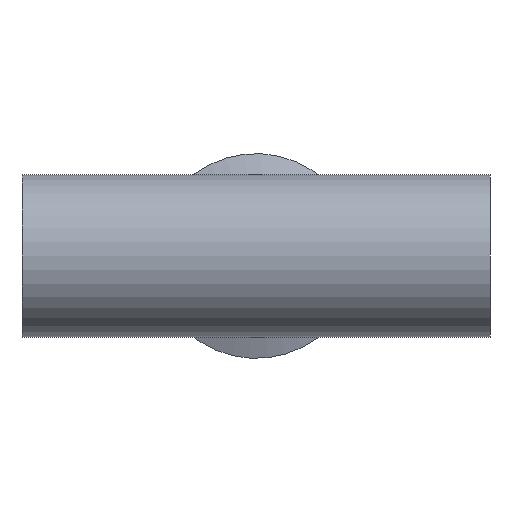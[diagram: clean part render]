
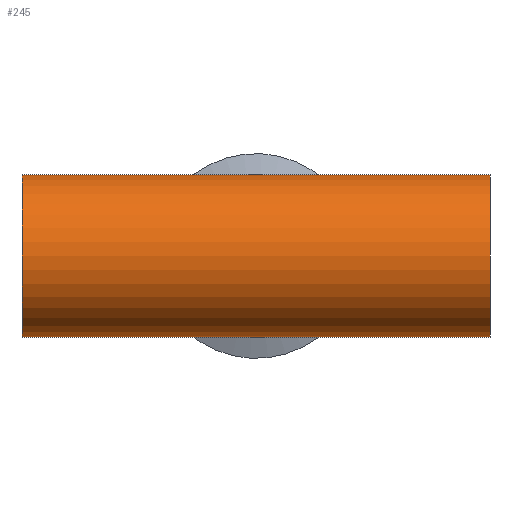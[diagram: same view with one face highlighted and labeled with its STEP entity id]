
A CAD part, front view. The second image highlights one B-rep face of the part: STEP entity #245.
In plain terms, the highlighted cylindrical face has radius 25.4 mm (diameter 50.8 mm), a partial arc.
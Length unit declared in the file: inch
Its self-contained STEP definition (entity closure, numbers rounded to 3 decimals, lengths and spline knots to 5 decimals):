
#5 = AXIS2_PLACEMENT_3D ( 'NONE', #188, #829, #289 ) ;
#8 = EDGE_CURVE ( 'NONE', #1010, #1090, #1019, .T. ) ;
#16 = EDGE_CURVE ( 'NONE', #1159, #1090, #312, .T. ) ;
#58 = FACE_OUTER_BOUND ( 'NONE', #623, .T. ) ;
#107 = CARTESIAN_POINT ( 'NONE',  ( 2.875, 0., 1. ) ) ;
#126 = CARTESIAN_POINT ( 'NONE',  ( 0., 0., -1. ) ) ;
#175 = ORIENTED_EDGE ( 'NONE', *, *, #1014, .T. ) ;
#188 = CARTESIAN_POINT ( 'NONE',  ( 2.875, 0., 0. ) ) ;
#216 = LINE ( 'NONE', #107, #661 ) ;
#227 = DIRECTION ( 'NONE',  ( 0., 0., -1. ) ) ;
#238 = VERTEX_POINT ( 'NONE', #413 ) ;
#239 = CARTESIAN_POINT ( 'NONE',  ( 2.875, 0., -1. ) ) ;
#245 = ADVANCED_FACE ( 'NONE', ( #58 ), #1001, .T. ) ;
#266 = ORIENTED_EDGE ( 'NONE', *, *, #16, .F. ) ;
#289 = DIRECTION ( 'NONE',  ( 0., 0., -1. ) ) ;
#301 = CARTESIAN_POINT ( 'NONE',  ( -2.875, 0., 1. ) ) ;
#311 = ORIENTED_EDGE ( 'NONE', *, *, #8, .T. ) ;
#312 = LINE ( 'NONE', #239, #515 ) ;
#351 = LINE ( 'NONE', #1110, #1074 ) ;
#353 = DIRECTION ( 'NONE',  ( 0., 0., 1. ) ) ;
#381 = EDGE_CURVE ( 'NONE', #590, #238, #446, .T. ) ;
#413 = CARTESIAN_POINT ( 'NONE',  ( 0., 0., 1. ) ) ;
#446 = LINE ( 'NONE', #1109, #907 ) ;
#481 = AXIS2_PLACEMENT_3D ( 'NONE', #759, #698, #353 ) ;
#515 = VECTOR ( 'NONE', #775, 39.37008 ) ;
#523 = ORIENTED_EDGE ( 'NONE', *, *, #873, .F. ) ;
#544 = DIRECTION ( 'NONE',  ( -1., 0., 0. ) ) ;
#570 = ORIENTED_EDGE ( 'NONE', *, *, #381, .T. ) ;
#590 = VERTEX_POINT ( 'NONE', #626 ) ;
#593 = CARTESIAN_POINT ( 'NONE',  ( -2.875, 0., 0. ) ) ;
#623 = EDGE_LOOP ( 'NONE', ( #523, #784, #570, #175, #311, #266 ) ) ;
#626 = CARTESIAN_POINT ( 'NONE',  ( 2.875, 0., 1. ) ) ;
#661 = VECTOR ( 'NONE', #846, 39.37008 ) ;
#679 = CIRCLE ( 'NONE', #5, 1. ) ;
#698 = DIRECTION ( 'NONE',  ( -1., 0., 0. ) ) ;
#718 = EDGE_CURVE ( 'NONE', #590, #802, #679, .T. ) ;
#759 = CARTESIAN_POINT ( 'NONE',  ( 2.875, 0., 0. ) ) ;
#775 = DIRECTION ( 'NONE',  ( -1., 0., 0. ) ) ;
#784 = ORIENTED_EDGE ( 'NONE', *, *, #718, .F. ) ;
#802 = VERTEX_POINT ( 'NONE', #1234 ) ;
#829 = DIRECTION ( 'NONE',  ( 1., 0., 0. ) ) ;
#846 = DIRECTION ( 'NONE',  ( -1., 0., 0. ) ) ;
#873 = EDGE_CURVE ( 'NONE', #802, #1159, #351, .T. ) ;
#907 = VECTOR ( 'NONE', #544, 39.37008 ) ;
#1000 = AXIS2_PLACEMENT_3D ( 'NONE', #593, #1172, #227 ) ;
#1001 = CYLINDRICAL_SURFACE ( 'NONE', #481, 1. ) ;
#1010 = VERTEX_POINT ( 'NONE', #301 ) ;
#1014 = EDGE_CURVE ( 'NONE', #238, #1010, #216, .T. ) ;
#1019 = CIRCLE ( 'NONE', #1000, 1. ) ;
#1059 = CARTESIAN_POINT ( 'NONE',  ( -2.875, 0., -1. ) ) ;
#1074 = VECTOR ( 'NONE', #1106, 39.37008 ) ;
#1090 = VERTEX_POINT ( 'NONE', #1059 ) ;
#1106 = DIRECTION ( 'NONE',  ( -1., 0., 0. ) ) ;
#1109 = CARTESIAN_POINT ( 'NONE',  ( 2.875, 0., 1. ) ) ;
#1110 = CARTESIAN_POINT ( 'NONE',  ( 2.875, 0., -1. ) ) ;
#1159 = VERTEX_POINT ( 'NONE', #126 ) ;
#1172 = DIRECTION ( 'NONE',  ( 1., 0., 0. ) ) ;
#1234 = CARTESIAN_POINT ( 'NONE',  ( 2.875, 0., -1. ) ) ;
